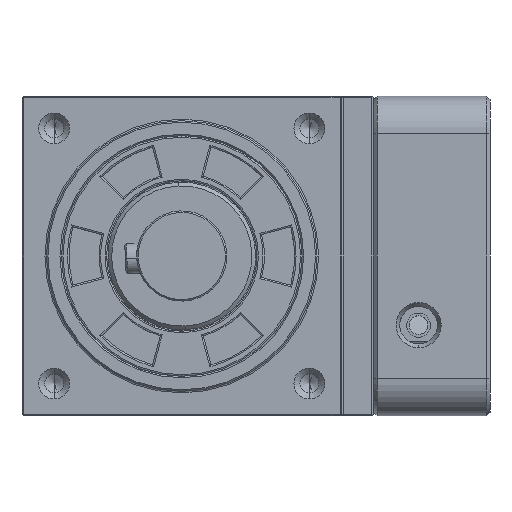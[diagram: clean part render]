
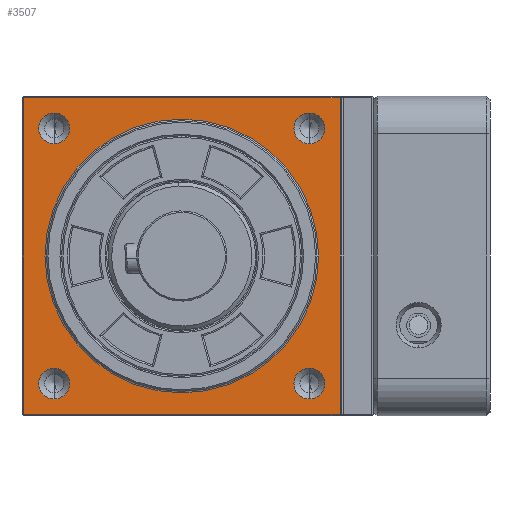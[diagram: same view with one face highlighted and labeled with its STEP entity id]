
A CAD part, left-side view. The second image highlights one B-rep face of the part: STEP entity #3507.
In plain terms, the highlighted planar face has unit normal (-1, 0, 0).
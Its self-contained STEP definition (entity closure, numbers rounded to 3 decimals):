
#217 = CARTESIAN_POINT ( 'NONE',  ( -22., 16.971, 16.971 ) ) ;
#593 = DIRECTION ( 'NONE',  ( 0., 0., 1. ) ) ;
#668 = ORIENTED_EDGE ( 'NONE', *, *, #9393, .T. ) ;
#866 = DIRECTION ( 'NONE',  ( -1., 0., 0. ) ) ;
#941 = VERTEX_POINT ( 'NONE', #8458 ) ;
#963 = EDGE_LOOP ( 'NONE', ( #17973, #21964 ) ) ;
#984 = AXIS2_PLACEMENT_3D ( 'NONE', #3955, #15995, #21261 ) ;
#1073 = EDGE_CURVE ( 'NONE', #9789, #1981, #1666, .T. ) ;
#1212 = DIRECTION ( 'NONE',  ( 0., 1., 0. ) ) ;
#1564 = EDGE_CURVE ( 'NONE', #10175, #5006, #18266, .T. ) ;
#1587 = AXIS2_PLACEMENT_3D ( 'NONE', #22391, #3318, #20572 ) ;
#1606 = EDGE_LOOP ( 'NONE', ( #668, #12877, #4847, #17502 ) ) ;
#1666 = CIRCLE ( 'NONE', #10669, 2.05 ) ;
#1961 = DIRECTION ( 'NONE',  ( -1., 0., 0. ) ) ;
#1981 = VERTEX_POINT ( 'NONE', #20703 ) ;
#2035 = DIRECTION ( 'NONE',  ( 0., 0., 1. ) ) ;
#2461 = ORIENTED_EDGE ( 'NONE', *, *, #7882, .F. ) ;
#2554 = ORIENTED_EDGE ( 'NONE', *, *, #16586, .F. ) ;
#2928 = CARTESIAN_POINT ( 'NONE',  ( -22., 16.971, -19.021 ) ) ;
#2993 = CARTESIAN_POINT ( 'NONE',  ( -22., -16.971, -14.921 ) ) ;
#3091 = DIRECTION ( 'NONE',  ( 0., -1., 0. ) ) ;
#3154 = VECTOR ( 'NONE', #4250, 1000. ) ;
#3178 = VERTEX_POINT ( 'NONE', #21734 ) ;
#3318 = DIRECTION ( 'NONE',  ( 1., 0., 0. ) ) ;
#3494 = AXIS2_PLACEMENT_3D ( 'NONE', #10278, #10498, #12101 ) ;
#3507 = ADVANCED_FACE ( 'NONE', ( #14104, #10024, #20948, #21736, #22312, #8131 ), #17906, .T. ) ;
#3612 = CARTESIAN_POINT ( 'NONE',  ( -22., 0., -18.2 ) ) ;
#3631 = AXIS2_PLACEMENT_3D ( 'NONE', #13067, #12993, #593 ) ;
#3955 = CARTESIAN_POINT ( 'NONE',  ( -22., 0., 0. ) ) ;
#4195 = EDGE_CURVE ( 'NONE', #18307, #3178, #19733, .T. ) ;
#4250 = DIRECTION ( 'NONE',  ( 0., 0., -1. ) ) ;
#4267 = CIRCLE ( 'NONE', #3631, 2.05 ) ;
#4475 = CARTESIAN_POINT ( 'NONE',  ( -22., 0., 21.05 ) ) ;
#4714 = VERTEX_POINT ( 'NONE', #7693 ) ;
#4847 = ORIENTED_EDGE ( 'NONE', *, *, #7105, .T. ) ;
#4958 = AXIS2_PLACEMENT_3D ( 'NONE', #14657, #866, #13050 ) ;
#5006 = VERTEX_POINT ( 'NONE', #8684 ) ;
#5054 = ORIENTED_EDGE ( 'NONE', *, *, #20901, .F. ) ;
#5195 = CARTESIAN_POINT ( 'NONE',  ( -22., 16.971, -16.971 ) ) ;
#5318 = CARTESIAN_POINT ( 'NONE',  ( -22., -16.971, 16.971 ) ) ;
#5323 = EDGE_LOOP ( 'NONE', ( #18132, #2554 ) ) ;
#5418 = VECTOR ( 'NONE', #7298, 1000. ) ;
#5451 = CARTESIAN_POINT ( 'NONE',  ( -22., 16.971, 19.021 ) ) ;
#6109 = CARTESIAN_POINT ( 'NONE',  ( -22., -16.971, 16.971 ) ) ;
#6213 = CARTESIAN_POINT ( 'NONE',  ( -22., 16.971, -14.921 ) ) ;
#6958 = EDGE_CURVE ( 'NONE', #4714, #15598, #8180, .T. ) ;
#7105 = EDGE_CURVE ( 'NONE', #941, #10175, #20988, .T. ) ;
#7298 = DIRECTION ( 'NONE',  ( 0., 0., 1. ) ) ;
#7544 = ORIENTED_EDGE ( 'NONE', *, *, #6958, .F. ) ;
#7693 = CARTESIAN_POINT ( 'NONE',  ( -22., -16.971, 14.921 ) ) ;
#7851 = CIRCLE ( 'NONE', #15248, 2.05 ) ;
#7882 = EDGE_CURVE ( 'NONE', #15598, #4714, #7851, .T. ) ;
#8131 = FACE_BOUND ( 'NONE', #8267, .T. ) ;
#8180 = CIRCLE ( 'NONE', #12738, 2.05 ) ;
#8267 = EDGE_LOOP ( 'NONE', ( #2461, #7544 ) ) ;
#8458 = CARTESIAN_POINT ( 'NONE',  ( -22., -21.05, -21.05 ) ) ;
#8684 = CARTESIAN_POINT ( 'NONE',  ( -22., 21.05, 21.05 ) ) ;
#9210 = CARTESIAN_POINT ( 'NONE',  ( -22., -16.971, 19.021 ) ) ;
#9232 = CARTESIAN_POINT ( 'NONE',  ( -22., -16.971, -19.021 ) ) ;
#9243 = DIRECTION ( 'NONE',  ( 0., 0., 1. ) ) ;
#9393 = EDGE_CURVE ( 'NONE', #5006, #12869, #12430, .T. ) ;
#9710 = CARTESIAN_POINT ( 'NONE',  ( -22., 21.05, -21.05 ) ) ;
#9789 = VERTEX_POINT ( 'NONE', #5451 ) ;
#10024 = FACE_BOUND ( 'NONE', #11056, .T. ) ;
#10175 = VERTEX_POINT ( 'NONE', #10323 ) ;
#10278 = CARTESIAN_POINT ( 'NONE',  ( -22., 16.971, 16.971 ) ) ;
#10323 = CARTESIAN_POINT ( 'NONE',  ( -22., -21.05, 21.05 ) ) ;
#10498 = DIRECTION ( 'NONE',  ( -1., 0., 0. ) ) ;
#10669 = AXIS2_PLACEMENT_3D ( 'NONE', #217, #1961, #2035 ) ;
#10998 = DIRECTION ( 'NONE',  ( -1., 0., 0. ) ) ;
#11056 = EDGE_LOOP ( 'NONE', ( #14142, #20036 ) ) ;
#11459 = DIRECTION ( 'NONE',  ( 0., 0., 1. ) ) ;
#12101 = DIRECTION ( 'NONE',  ( 0., 0., 1. ) ) ;
#12198 = EDGE_CURVE ( 'NONE', #22576, #19156, #4267, .T. ) ;
#12430 = LINE ( 'NONE', #17976, #3154 ) ;
#12462 = EDGE_CURVE ( 'NONE', #3178, #18307, #21458, .T. ) ;
#12481 = CARTESIAN_POINT ( 'NONE',  ( -22., -21.05, 0. ) ) ;
#12738 = AXIS2_PLACEMENT_3D ( 'NONE', #5318, #13850, #15613 ) ;
#12869 = VERTEX_POINT ( 'NONE', #9710 ) ;
#12877 = ORIENTED_EDGE ( 'NONE', *, *, #17027, .T. ) ;
#12993 = DIRECTION ( 'NONE',  ( -1., 0., 0. ) ) ;
#13050 = DIRECTION ( 'NONE',  ( 0., 0., 1. ) ) ;
#13067 = CARTESIAN_POINT ( 'NONE',  ( -22., -16.971, -16.971 ) ) ;
#13289 = EDGE_CURVE ( 'NONE', #14022, #21916, #21429, .T. ) ;
#13587 = CARTESIAN_POINT ( 'NONE',  ( -22., 0., -21.05 ) ) ;
#13633 = VECTOR ( 'NONE', #1212, 1000. ) ;
#13850 = DIRECTION ( 'NONE',  ( -1., 0., 0. ) ) ;
#14022 = VERTEX_POINT ( 'NONE', #2928 ) ;
#14104 = FACE_OUTER_BOUND ( 'NONE', #1606, .T. ) ;
#14142 = ORIENTED_EDGE ( 'NONE', *, *, #12462, .T. ) ;
#14457 = CIRCLE ( 'NONE', #4958, 2.05 ) ;
#14657 = CARTESIAN_POINT ( 'NONE',  ( -22., -16.971, -16.971 ) ) ;
#15248 = AXIS2_PLACEMENT_3D ( 'NONE', #6109, #21885, #11459 ) ;
#15598 = VERTEX_POINT ( 'NONE', #9210 ) ;
#15613 = DIRECTION ( 'NONE',  ( 0., 0., 1. ) ) ;
#15891 = EDGE_CURVE ( 'NONE', #21916, #14022, #21598, .T. ) ;
#15995 = DIRECTION ( 'NONE',  ( -1., 0., 0. ) ) ;
#16383 = CIRCLE ( 'NONE', #3494, 2.05 ) ;
#16586 = EDGE_CURVE ( 'NONE', #1981, #9789, #16383, .T. ) ;
#16681 = DIRECTION ( 'NONE',  ( 1., 0., 0. ) ) ;
#17027 = EDGE_CURVE ( 'NONE', #12869, #941, #22384, .T. ) ;
#17502 = ORIENTED_EDGE ( 'NONE', *, *, #1564, .T. ) ;
#17794 = EDGE_LOOP ( 'NONE', ( #18766, #5054 ) ) ;
#17808 = AXIS2_PLACEMENT_3D ( 'NONE', #19661, #10998, #9243 ) ;
#17906 = PLANE ( 'NONE',  #984 ) ;
#17973 = ORIENTED_EDGE ( 'NONE', *, *, #15891, .F. ) ;
#17976 = CARTESIAN_POINT ( 'NONE',  ( -22., 21.05, 0. ) ) ;
#18132 = ORIENTED_EDGE ( 'NONE', *, *, #1073, .F. ) ;
#18266 = LINE ( 'NONE', #4475, #13633 ) ;
#18285 = CARTESIAN_POINT ( 'NONE',  ( -22., 0., 0. ) ) ;
#18307 = VERTEX_POINT ( 'NONE', #3612 ) ;
#18357 = AXIS2_PLACEMENT_3D ( 'NONE', #18285, #16681, #20363 ) ;
#18766 = ORIENTED_EDGE ( 'NONE', *, *, #12198, .F. ) ;
#18991 = DIRECTION ( 'NONE',  ( -1., 0., 0. ) ) ;
#19156 = VERTEX_POINT ( 'NONE', #9232 ) ;
#19661 = CARTESIAN_POINT ( 'NONE',  ( -22., 16.971, -16.971 ) ) ;
#19733 = CIRCLE ( 'NONE', #18357, 18.2 ) ;
#20036 = ORIENTED_EDGE ( 'NONE', *, *, #4195, .T. ) ;
#20363 = DIRECTION ( 'NONE',  ( 0., 0., 1. ) ) ;
#20572 = DIRECTION ( 'NONE',  ( 0., 0., 1. ) ) ;
#20703 = CARTESIAN_POINT ( 'NONE',  ( -22., 16.971, 14.921 ) ) ;
#20901 = EDGE_CURVE ( 'NONE', #19156, #22576, #14457, .T. ) ;
#20924 = DIRECTION ( 'NONE',  ( 0., 0., 1. ) ) ;
#20936 = AXIS2_PLACEMENT_3D ( 'NONE', #5195, #18991, #20924 ) ;
#20948 = FACE_BOUND ( 'NONE', #5323, .T. ) ;
#20988 = LINE ( 'NONE', #12481, #5418 ) ;
#21261 = DIRECTION ( 'NONE',  ( 0., 0., 1. ) ) ;
#21429 = CIRCLE ( 'NONE', #17808, 2.05 ) ;
#21458 = CIRCLE ( 'NONE', #1587, 18.2 ) ;
#21598 = CIRCLE ( 'NONE', #20936, 2.05 ) ;
#21734 = CARTESIAN_POINT ( 'NONE',  ( -22., 0., 18.2 ) ) ;
#21736 = FACE_BOUND ( 'NONE', #963, .T. ) ;
#21802 = VECTOR ( 'NONE', #3091, 1000. ) ;
#21885 = DIRECTION ( 'NONE',  ( -1., 0., 0. ) ) ;
#21916 = VERTEX_POINT ( 'NONE', #6213 ) ;
#21964 = ORIENTED_EDGE ( 'NONE', *, *, #13289, .F. ) ;
#22312 = FACE_BOUND ( 'NONE', #17794, .T. ) ;
#22384 = LINE ( 'NONE', #13587, #21802 ) ;
#22391 = CARTESIAN_POINT ( 'NONE',  ( -22., 0., 0. ) ) ;
#22576 = VERTEX_POINT ( 'NONE', #2993 ) ;
